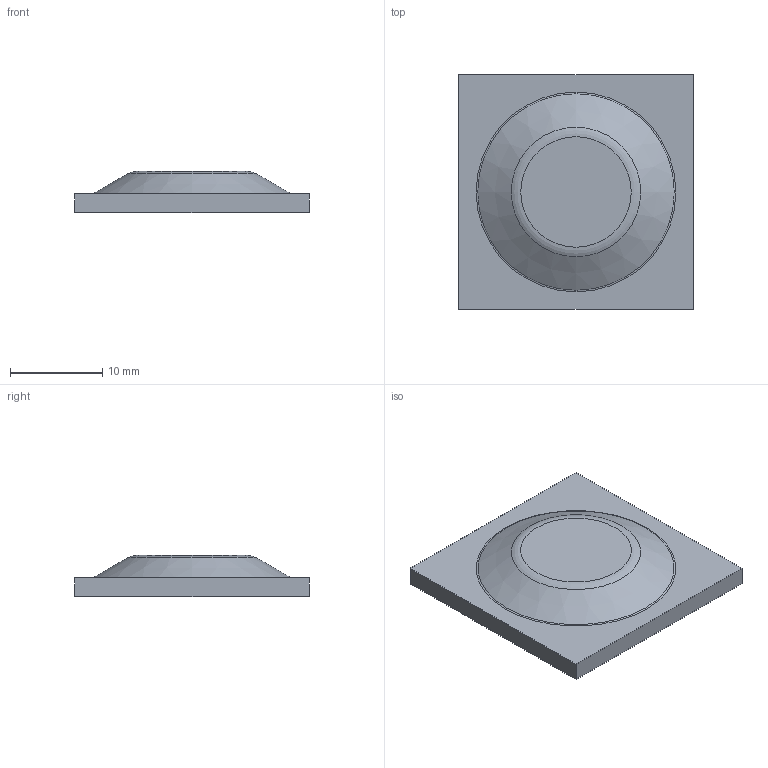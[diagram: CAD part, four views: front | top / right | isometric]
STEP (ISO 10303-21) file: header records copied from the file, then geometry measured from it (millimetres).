
FILE_DESCRIPTION(('PART XYZ REV A'),'1');
FILE_NAME('EF12','2014-03-26T19:23:52',('ERIC'),('TRIAX'),'Spatial Interop R21 SP3','Kubotek KeyCreator 2011 V10.5.1 (25051)','CHAZ');
FILE_SCHEMA(('CONFIG_CONTROL_DESIGN'));
Length unit declared in the file: inch
Products named in the file (1): 1
Bounding box: 25.4 x 25.4 x 4.45 mm (x, y, z)
Volume: 1376.6 mm3; surface area: 1561.2 mm2
Topology: 1 solids, 1 shells, 14 faces, 31 edges, 21 vertices
Faces by surface type: plane 8, torus 4, cone 2
Entity records: 360 total; most frequent: DIRECTION 58, CARTESIAN_POINT 51, ORIENTED_EDGE 40, AXIS2_PLACEMENT_3D 23, EDGE_LOOP 22, EDGE_CURVE 20, VERTEX_POINT 16, ADVANCED_FACE 14
